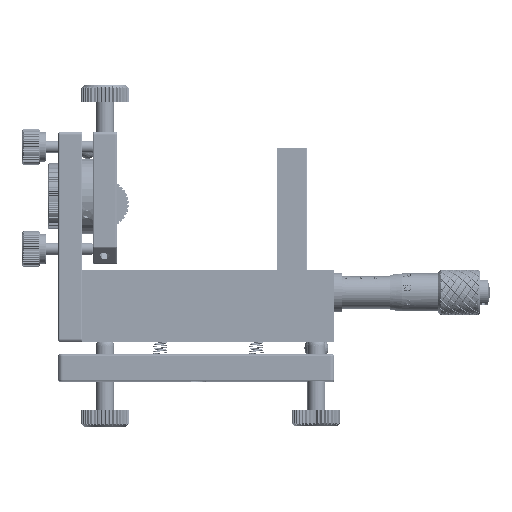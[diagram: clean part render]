
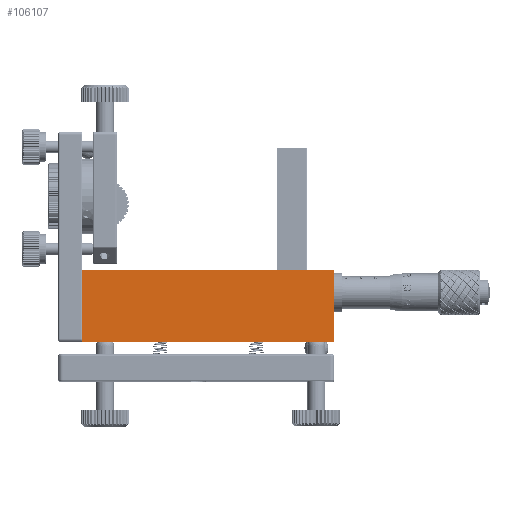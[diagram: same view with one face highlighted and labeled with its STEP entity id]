
A CAD part, top view. The second image highlights one B-rep face of the part: STEP entity #106107.
In plain terms, the highlighted planar face has unit normal (0, 0, 1).
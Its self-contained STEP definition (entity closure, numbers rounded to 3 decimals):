
#23305 = EDGE_LOOP ( 'NONE', ( #32755, #88301, #88280, #88312 ) ) ;
#32755 = ORIENTED_EDGE ( 'NONE', *, *, #34701, .T. ) ;
#34407 = EDGE_CURVE ( 'NONE', #211045, #210916, #165024, .T. ) ;
#34643 = EDGE_CURVE ( 'NONE', #210916, #211122, #117095, .T. ) ;
#34671 = EDGE_CURVE ( 'NONE', #211045, #211211, #117147, .T. ) ;
#34701 = EDGE_CURVE ( 'NONE', #211211, #211122, #117120, .T. ) ;
#88280 = ORIENTED_EDGE ( 'NONE', *, *, #34407, .F. ) ;
#88301 = ORIENTED_EDGE ( 'NONE', *, *, #34643, .F. ) ;
#88312 = ORIENTED_EDGE ( 'NONE', *, *, #34671, .T. ) ;
#106107 = ADVANCED_FACE ( 'NONE', ( #162916 ), #175359, .F. ) ;
#113270 = CARTESIAN_POINT ( 'NONE',  ( 50.165, 12.151, 25. ) ) ;
#113309 = DIRECTION ( 'NONE',  ( 1., 0., 0. ) ) ;
#117048 = VECTOR ( 'NONE', #138697, 1000. ) ;
#117095 = LINE ( 'NONE', #138651, #117048 ) ;
#117120 = LINE ( 'NONE', #138753, #117164 ) ;
#117131 = VECTOR ( 'NONE', #138805, 1000. ) ;
#117147 = LINE ( 'NONE', #138764, #117131 ) ;
#117164 = VECTOR ( 'NONE', #138800, 1000. ) ;
#138651 = CARTESIAN_POINT ( 'NONE',  ( 50.165, 12.151, 25. ) ) ;
#138697 = DIRECTION ( 'NONE',  ( 0., -1., 0. ) ) ;
#138753 = CARTESIAN_POINT ( 'NONE',  ( 50.165, -11.849, 25. ) ) ;
#138764 = CARTESIAN_POINT ( 'NONE',  ( -33.835, 12.151, 25. ) ) ;
#138800 = DIRECTION ( 'NONE',  ( 1., 0., 0. ) ) ;
#138805 = DIRECTION ( 'NONE',  ( 0., -1., 0. ) ) ;
#147792 = AXIS2_PLACEMENT_3D ( 'NONE', #175361, #175363, #175390 ) ;
#162916 = FACE_OUTER_BOUND ( 'NONE', #23305, .T. ) ;
#164955 = VECTOR ( 'NONE', #113309, 1000. ) ;
#165024 = LINE ( 'NONE', #113270, #164955 ) ;
#175359 = PLANE ( 'NONE',  #147792 ) ;
#175361 = CARTESIAN_POINT ( 'NONE',  ( 50.165, 12.151, 25. ) ) ;
#175363 = DIRECTION ( 'NONE',  ( 0., 0., -1. ) ) ;
#175390 = DIRECTION ( 'NONE',  ( -1., 0., 0. ) ) ;
#176666 = CARTESIAN_POINT ( 'NONE',  ( -33.835, 12.151, 25. ) ) ;
#176684 = CARTESIAN_POINT ( 'NONE',  ( 50.165, 12.151, 25. ) ) ;
#176738 = CARTESIAN_POINT ( 'NONE',  ( 50.165, -11.849, 25. ) ) ;
#176744 = CARTESIAN_POINT ( 'NONE',  ( -33.835, -11.849, 25. ) ) ;
#210916 = VERTEX_POINT ( 'NONE', #176684 ) ;
#211045 = VERTEX_POINT ( 'NONE', #176666 ) ;
#211122 = VERTEX_POINT ( 'NONE', #176738 ) ;
#211211 = VERTEX_POINT ( 'NONE', #176744 ) ;
